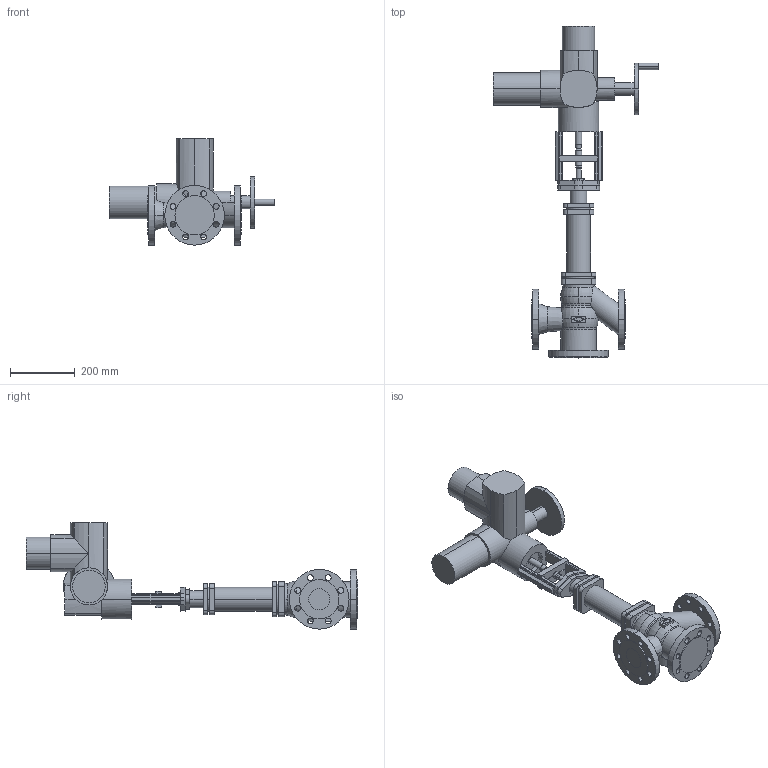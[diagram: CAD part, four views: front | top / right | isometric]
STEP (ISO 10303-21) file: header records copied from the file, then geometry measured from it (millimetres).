
FILE_DESCRIPTION(('OneSpaceDesigner STEP Export'),'2;1');
FILE_NAME('c000003217.stp','2007-01-25T12:03:04',(''),(''),'OneSpace Designer STEP processor for AP214 (Solid Model)','OneSpace Designer 14.00B 27-May-2006 (C) CoCreate Software GmbH','');
FILE_SCHEMA(('AUTOMOTIVE_DESIGN { 1 0 10303 214 1 1 1 1 }'));
Length unit declared in the file: millimetre
Products named in the file (2): 1; 2
Bounding box: 514 x 1029 x 329.5 mm (x, y, z)
Volume: 14608293.4 mm3; surface area: 877610.2 mm2
Topology: 2 solids, 2 shells, 373 faces, 970 edges, 623 vertices
Faces by surface type: cylinder 186, plane 158, torus 21, cone 8
Entity records: 10966 total; most frequent: CARTESIAN_POINT 2396, ORIENTED_EDGE 1940, DIRECTION 1590, EDGE_CURVE 970, VERTEX_POINT 623, AXIS2_PLACEMENT_3D 553, VECTOR 484, LINE 484
